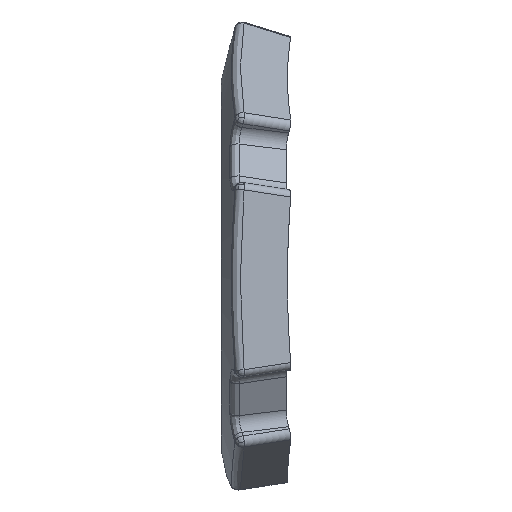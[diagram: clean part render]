
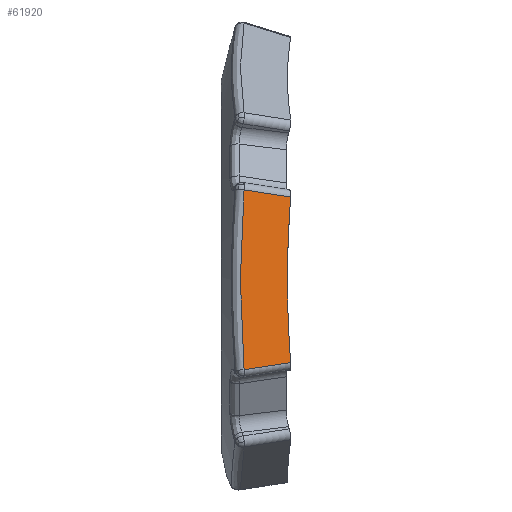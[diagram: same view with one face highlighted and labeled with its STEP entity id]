
A CAD part, top view. The second image highlights one B-rep face of the part: STEP entity #61920.
In plain terms, the highlighted planar face has unit normal (0.259, 0, 0.966) as drawn and (0.259, 0, -0.966) by its records, which use the part's own axes.
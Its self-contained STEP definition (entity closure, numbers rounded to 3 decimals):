
#19350=CARTESIAN_POINT('',(-7.357,-187.238,
5.736));
#19360=DIRECTION('',(1.,0.,0.));
#19370=DIRECTION('',(0.,0.,1.));
#19380=AXIS2_PLACEMENT_3D('',#19350,#19360,#19370);
#19390=CONICAL_SURFACE('',#19380,15.764,1.334);
#25840=CARTESIAN_POINT('',(-7.138,-181.646,
-9.972));
#25850=VERTEX_POINT('',#25840);
#25880=CARTESIAN_POINT('',(-11.029,-103.735,
-11.014));
#25890=DIRECTION('',(-0.259,0.,
0.966));
#25900=DIRECTION('',(0.,-1.,0.));
#25910=AXIS2_PLACEMENT_3D('',#25880,#25890,#25900);
#25920=PLANE('',#25910);
#25930=CARTESIAN_POINT('',(-7.138,-181.646,
-9.972));
#25940=CARTESIAN_POINT('',(-7.209,-182.576,
-9.991));
#25950=CARTESIAN_POINT('',(-7.264,-183.508,
-10.005));
#25960=CARTESIAN_POINT('',(-7.301,-184.44,
-10.015));
#25970=CARTESIAN_POINT('',(-7.338,-185.372,
-10.025));
#25980=CARTESIAN_POINT('',(-7.357,-186.305,
-10.03));
#25990=CARTESIAN_POINT('',(-7.357,-187.238,
-10.03));
#26000=CARTESIAN_POINT('',(-7.357,-188.17,
-10.03));
#26010=CARTESIAN_POINT('',(-7.338,-189.103,
-10.025));
#26020=CARTESIAN_POINT('',(-7.301,-190.036,
-10.015));
#26030=CARTESIAN_POINT('',(-7.264,-190.968,
-10.005));
#26040=CARTESIAN_POINT('',(-7.209,-191.899,
-9.991));
#26050=CARTESIAN_POINT('',(-7.138,-192.829,
-9.972));
#26060=B_SPLINE_CURVE_WITH_KNOTS('',3,(#25930,#25940,#25950,#25960,
#25970,#25980,#25990,#26000,#26010,#26020,#26030,#26040,#26050),
.UNSPECIFIED.,.F.,.F.,(4,3,3,3,4),(0.,2.799,5.598,
8.396,11.195),.UNSPECIFIED.);
#26070=SURFACE_CURVE('',#26060,(#25920,#19390),.CURVE_3D.);
#26080=CARTESIAN_POINT('',(-7.138,-192.829,
-9.972));
#26090=VERTEX_POINT('',#26080);
#26100=EDGE_CURVE('',#25850,#26090,#26070,.T.);
#61560=ORIENTED_EDGE('',*,*,#26100,.T.);
#61570=CARTESIAN_POINT('',(-11.691,-180.942,
-11.191));
#61580=DIRECTION('',(0.955,-0.148,
0.256));
#61590=VECTOR('',#61580,1.);
#61600=LINE('',#61570,#61590);
#61610=CARTESIAN_POINT('',(-10.282,-181.16,
-10.814));
#61620=VERTEX_POINT('',#61610);
#61630=EDGE_CURVE('',#61620,#25850,#61600,.T.);
#61640=ORIENTED_EDGE('',*,*,#61630,.T.);
#61650=CARTESIAN_POINT('',(-10.282,-181.16,
-10.814));
#61660=CARTESIAN_POINT('',(-10.336,-181.834,
-10.828));
#61670=CARTESIAN_POINT('',(-10.382,-182.509,
-10.841));
#61680=CARTESIAN_POINT('',(-10.457,-183.859,
-10.861));
#61690=CARTESIAN_POINT('',(-10.486,-184.534,
-10.868));
#61700=CARTESIAN_POINT('',(-10.524,-185.886,
-10.879));
#61710=CARTESIAN_POINT('',(-10.533,-186.562,
-10.881));
#61720=CARTESIAN_POINT('',(-10.533,-187.914,
-10.881));
#61730=CARTESIAN_POINT('',(-10.524,-188.59,
-10.879));
#61740=CARTESIAN_POINT('',(-10.486,-189.941,
-10.868));
#61750=CARTESIAN_POINT('',(-10.457,-190.617,
-10.861));
#61760=CARTESIAN_POINT('',(-10.382,-191.967,
-10.841));
#61770=CARTESIAN_POINT('',(-10.336,-192.642,
-10.828));
#61780=CARTESIAN_POINT('',(-10.282,-193.316,
-10.814));
#61790=B_SPLINE_CURVE_WITH_KNOTS('',3,(#61650,#61660,#61670,#61680,
#61690,#61700,#61710,#61720,#61730,#61740,#61750,#61760,#61770,#61780),
.UNSPECIFIED.,.F.,.F.,(4,2,2,2,2,2,4),(41.542,43.577
,45.612,47.648,49.683,51.718,
53.754),.UNSPECIFIED.);
#61800=CARTESIAN_POINT('',(-10.282,-193.316,
-10.814));
#61810=VERTEX_POINT('',#61800);
#61820=EDGE_CURVE('',#61620,#61810,#61790,.T.);
#61830=ORIENTED_EDGE('',*,*,#61820,.F.);
#61840=CARTESIAN_POINT('',(-11.691,-193.534,
-11.191));
#61850=DIRECTION('',(0.955,0.148,
0.256));
#61860=VECTOR('',#61850,1.);
#61870=LINE('',#61840,#61860);
#61880=EDGE_CURVE('',#61810,#26090,#61870,.T.);
#61890=ORIENTED_EDGE('',*,*,#61880,.F.);
#61900=EDGE_LOOP('',(#61890,#61830,#61640,#61560));
#61910=FACE_OUTER_BOUND('',#61900,.T.);
#61920=ADVANCED_FACE('',(#61910),#25920,.F.);
